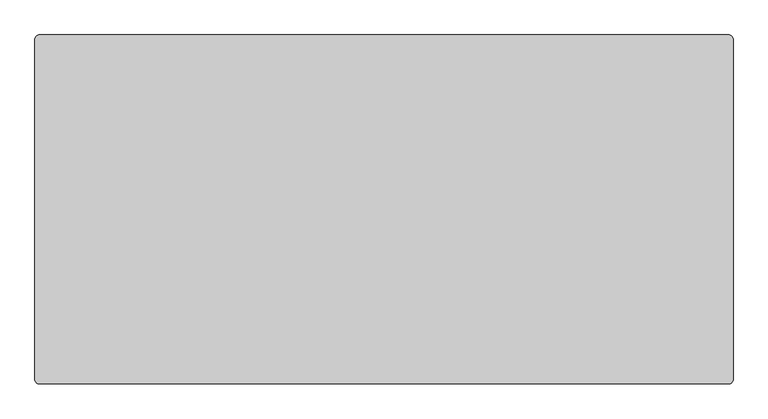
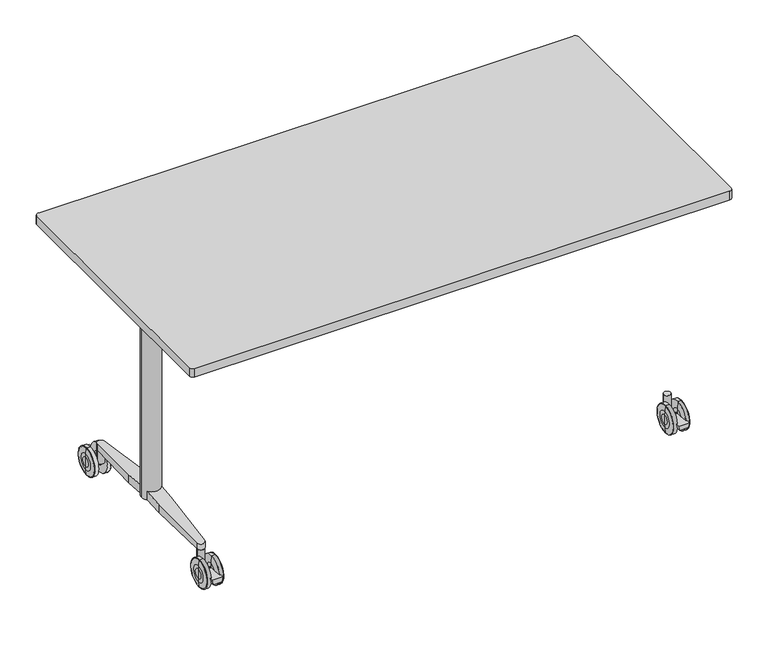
"""IFC4 building model written with IfcOpenShell, lengths in millimetres: furniture geometry."""

from ifc_helpers import new_model, si_unit, point, frame, frame_2d, origin, place, context, project, spatial, polyline, circle_curve, ellipse_curve, trimmed, segment, composite_curve, outline, extrude, source, transform, mapped, element, save
from ifc_brep_helpers import plane_surface, cylinder_surface, revolved_surface, advanced_brep


def furniture_0f136f00(model_context):
    return source(origin(), model_context, "Body", "SolidModel", [
        extrude(outline(composite_curve([segment(trimmed(circle_curve(frame_2d((-740.0, 490.9511544)), 10.0), [point((-750.0, 490.9511544))], [point((-740.0, 500.9511544))], False, "CARTESIAN"), True, "CONTINUOUS"), segment(polyline([(-740.0, 500.9511544), (740.0, 500.9511544)]), True, "CONTINUOUS"), segment(trimmed(circle_curve(frame_2d((740.0, 490.9511544)), 10.0), [point((740.0, 500.9511544))], [point((750.0, 490.9511544))], False, "CARTESIAN"), True, "CONTINUOUS"), segment(polyline([(750.0, 490.9511544), (750.0, -239.0488456)]), True, "CONTINUOUS"), segment(trimmed(circle_curve(frame_2d((740.0, -239.0488456)), 10.0), [point((750.0, -239.0488456))], [point((740.0, -249.0488456))], False, "CARTESIAN"), True, "CONTINUOUS"), segment(polyline([(740.0, -249.0488456), (-740.0, -249.0488456)]), True, "CONTINUOUS"), segment(trimmed(circle_curve(frame_2d((-740.0, -239.0488456)), 10.0), [point((-740.0, -249.0488456))], [point((-750.0, -239.0488456))], False, "CARTESIAN"), True, "CONTINUOUS"), segment(polyline([(-750.0, -239.0488456), (-750.0, 490.9511544)]), True, "CONTINUOUS")], self_intersect=False)), frame((0.0, 0.0, 705.0), z_axis=(0.0, 0.0, 1.0), x_axis=(1.0, 0.0, 0.0)), (0.0, 0.0, 1.0), 25.0),
        extrude(outline(polyline([(46.8012701, -659.9796901), (33.7579803, -657.2784737), (33.7579803, -633.5602115), (46.8012701, -630.8589951), (46.8012701, -659.9796901)])), frame((0.0, -194.0488456, 0.0), z_axis=(0.0, 1.0, 0.0), x_axis=(0.0, 0.0, 1.0)), (0.0, 0.0, 1.0), 50.0),
        extrude(outline(composite_curve([segment(trimmed(circle_curve(frame_2d((-645.5388896, -113.8396127)), 9.5), [point((-655.0388896, -113.8396127))], [point((-636.0388896, -113.8396127))], False, "CARTESIAN"), True, "CONTINUOUS"), segment(trimmed(circle_curve(frame_2d((-645.5388896, -113.8396127)), 9.5), [point((-636.0388896, -113.8396127))], [point((-655.0388896, -113.8396127))], False, "CARTESIAN"), True, "CONTINUOUS")], self_intersect=False)), frame((0.0, 0.0, 50.0000143), z_axis=(0.0, 0.0, 1.0), x_axis=(1.0, 0.0, 0.0)), (0.0, 0.0, 1.0), 38.8098324),
        advanced_brep(
        [(-620.4530674, -144.0488456, 26.9613134), (-620.4530674, -144.0488456, 53.0387194), (-620.4530674, -144.0488456, 40.0000164), (-622.5845915, -144.0488456, 0.8972162), (-622.5845915, -144.0488456, 79.1028166), (-621.0121742, -144.0488456, 63.8876748), (-621.0121742, -144.0488456, 16.1123581), (-633.5439759, -144.0488456, 1.43e-05), (-633.5439759, -144.0488456, 80.0000185), (-623.5792938, -144.0488456, 80.0000185), (-623.5792938, -144.0488456, 1.43e-05), (-635.4530966, -144.0488456, 20.9999281), (-635.4530966, -144.0488456, 59.0001048), (-635.4530966, -144.0488456, 32.3463502), (-635.4530966, -144.0488456, 47.6536826), (-655.3531174, -144.0488456, 32.3463502), (-655.3531174, -144.0488456, 47.6536826), (-655.3531174, -144.0488456, 20.9999281), (-655.3531174, -144.0488456, 59.0001048), (-657.2622381, -144.0488456, 1.43e-05), (-657.2622381, -144.0488456, 80.0000185), (-666.3249398, -144.0488456, 1.43e-05), (-666.3249398, -144.0488456, 80.0000185), (-669.7942336, -144.0488456, 16.1142331), (-669.7942336, -144.0488456, 63.8857997), (-668.3143443, -144.0488456, 78.2056147), (-668.3143443, -144.0488456, 1.7944182), (-670.3531466, -144.0488456, 40.0000164), (-670.3531466, -144.0488456, 53.0406045), (-670.3531466, -144.0488456, 26.9594284)],
        [
            (0, 1, circle_curve(frame((-620.4530674, -144.0488456, 40.0000164), z_axis=(1.0, 0.0, 0.0), x_axis=(0.0, 0.0, 1.0)), 13.038703)),
            (1, 2),
            (2, 0),
            (1, 0, circle_curve(frame((-620.4530674, -144.0488456, 40.0000164), z_axis=(1.0, 0.0, 0.0), x_axis=(0.0, 0.0, 1.0)), 13.038703)),
            (3, 4, circle_curve(frame((-622.5845915, -144.0488456, 40.0000164), z_axis=(1.0, 0.0, 0.0), x_axis=(0.0, 0.0, 1.0)), 39.1028002)),
            (4, 5),
            (5, 6, circle_curve(frame((-621.0121742, -144.0488456, 40.0000164), z_axis=(-1.0, 0.0, 0.0), x_axis=(0.0, 0.0, 1.0)), 23.8876584)),
            (6, 3),
            (4, 3, circle_curve(frame((-622.5845915, -144.0488456, 40.0000164), z_axis=(1.0, 0.0, 0.0), x_axis=(0.0, 0.0, 1.0)), 39.1028002)),
            (6, 5, circle_curve(frame((-621.0121742, -144.0488456, 40.0000164), z_axis=(-1.0, 0.0, 0.0), x_axis=(0.0, 0.0, 1.0)), 23.8876584)),
            (7, 8, circle_curve(frame((-633.5439759, -144.0488456, 40.0000164), z_axis=(1.0, 0.0, 0.0), x_axis=(0.0, 0.0, 1.0)), 40.0000021)),
            (8, 9),
            (9, 10, circle_curve(frame((-623.5792938, -144.0488456, 40.0000164), z_axis=(-1.0, 0.0, 0.0), x_axis=(0.0, 0.0, 1.0)), 40.0000021)),
            (10, 7),
            (8, 7, circle_curve(frame((-633.5439759, -144.0488456, 40.0000164), z_axis=(1.0, 0.0, 0.0), x_axis=(0.0, 0.0, 1.0)), 40.0000021)),
            (10, 9, circle_curve(frame((-623.5792938, -144.0488456, 40.0000164), z_axis=(-1.0, 0.0, 0.0), x_axis=(0.0, 0.0, 1.0)), 40.0000021)),
            (11, 12, circle_curve(frame((-635.4530966, -144.0488456, 40.0000164), z_axis=(1.0, 0.0, 0.0), x_axis=(0.0, 0.0, 1.0)), 19.0000883)),
            (12, 8),
            (7, 11),
            (12, 11, circle_curve(frame((-635.4530966, -144.0488456, 40.0000164), z_axis=(1.0, 0.0, 0.0), x_axis=(0.0, 0.0, 1.0)), 19.0000883)),
            (13, 14, circle_curve(frame((-635.4530966, -144.0488456, 40.0000164), z_axis=(1.0, 0.0, 0.0), x_axis=(0.0, 0.0, 1.0)), 7.6536662)),
            (14, 12),
            (11, 13),
            (14, 13, circle_curve(frame((-635.4530966, -144.0488456, 40.0000164), z_axis=(1.0, 0.0, 0.0), x_axis=(0.0, 0.0, 1.0)), 7.6536662)),
            (15, 16, circle_curve(frame((-655.3531174, -144.0488456, 40.0000164), z_axis=(1.0, 0.0, 0.0), x_axis=(0.0, 0.0, 1.0)), 7.6536662)),
            (16, 14),
            (13, 15),
            (16, 15, circle_curve(frame((-655.3531174, -144.0488456, 40.0000164), z_axis=(1.0, 0.0, 0.0), x_axis=(0.0, 0.0, 1.0)), 7.6536662)),
            (17, 18, circle_curve(frame((-655.3531174, -144.0488456, 40.0000164), z_axis=(1.0, 0.0, 0.0), x_axis=(0.0, 0.0, 1.0)), 19.0000883)),
            (18, 16),
            (15, 17),
            (18, 17, circle_curve(frame((-655.3531174, -144.0488456, 40.0000164), z_axis=(1.0, 0.0, 0.0), x_axis=(0.0, 0.0, 1.0)), 19.0000883)),
            (19, 20, circle_curve(frame((-657.2622381, -144.0488456, 40.0000164), z_axis=(1.0, 0.0, 0.0), x_axis=(0.0, 0.0, 1.0)), 40.0000021)),
            (20, 18),
            (17, 19),
            (20, 19, circle_curve(frame((-657.2622381, -144.0488456, 40.0000164), z_axis=(1.0, 0.0, 0.0), x_axis=(0.0, 0.0, 1.0)), 40.0000021)),
            (21, 22, circle_curve(frame((-666.3249398, -144.0488456, 40.0000164), z_axis=(1.0, 0.0, 0.0), x_axis=(0.0, 0.0, 1.0)), 40.0000021)),
            (22, 20),
            (19, 21),
            (22, 21, circle_curve(frame((-666.3249398, -144.0488456, 40.0000164), z_axis=(1.0, 0.0, 0.0), x_axis=(0.0, 0.0, 1.0)), 40.0000021)),
            (23, 24, circle_curve(frame((-669.7942336, -144.0488456, 40.0000164), z_axis=(1.0, 0.0, 0.0), x_axis=(0.0, 0.0, 1.0)), 23.8857833)),
            (24, 25),
            (25, 26, circle_curve(frame((-668.3143443, -144.0488456, 40.0000164), z_axis=(-1.0, 0.0, 0.0), x_axis=(0.0, 0.0, 1.0)), 38.2055982)),
            (26, 23),
            (24, 23, circle_curve(frame((-669.7942336, -144.0488456, 40.0000164), z_axis=(1.0, 0.0, 0.0), x_axis=(0.0, 0.0, 1.0)), 23.8857833)),
            (26, 25, circle_curve(frame((-668.3143443, -144.0488456, 40.0000164), z_axis=(-1.0, 0.0, 0.0), x_axis=(0.0, 0.0, 1.0)), 38.2055982)),
            (27, 28),
            (28, 29, circle_curve(frame((-670.3531466, -144.0488456, 40.0000164), z_axis=(-1.0, 0.0, 0.0), x_axis=(0.0, 0.0, 1.0)), 13.0405881)),
            (29, 27),
            (29, 28, circle_curve(frame((-670.3531466, -144.0488456, 40.0000164), z_axis=(-1.0, 0.0, 0.0), x_axis=(0.0, 0.0, 1.0)), 13.0405881)),
            (5, 1, circle_curve(frame((-725.9896451, -144.0488456, 53.0387194), z_axis=(0.0, 1.0, 0.0), x_axis=(-1.0, 0.0, 0.0)), 105.5365777)),
            (0, 6, circle_curve(frame((-725.9896451, -144.0488456, 26.9613134), z_axis=(0.0, 1.0, 0.0), x_axis=(-1.0, 0.0, 0.0)), 105.5365777)),
            (9, 4, circle_curve(frame((-623.5792938, -144.0488456, 79.0000185), z_axis=(0.0, 1.0, 0.0), x_axis=(-1.0, 0.0, 0.0)), 1.0)),
            (3, 10, circle_curve(frame((-623.5792938, -144.0488456, 1.0000143), z_axis=(0.0, 1.0, 0.0), x_axis=(-1.0, 0.0, 0.0)), 1.0)),
            (25, 22, circle_curve(frame((-666.3249398, -144.0488456, 78.0000185), z_axis=(0.0, 1.0, 0.0), x_axis=(-1.0, 0.0, 0.0)), 2.0)),
            (21, 26, circle_curve(frame((-666.3249398, -144.0488456, 2.0000143), z_axis=(0.0, 1.0, 0.0), x_axis=(-1.0, 0.0, 0.0)), 2.0)),
            (28, 24, circle_curve(frame((-564.8531466, -144.0488456, 53.0406045), z_axis=(0.0, 1.0, 0.0), x_axis=(-1.0, 0.0, 0.0)), 105.5)),
            (23, 29, circle_curve(frame((-564.8531466, -144.0488456, 26.9594284), z_axis=(0.0, 1.0, 0.0), x_axis=(-1.0, 0.0, 0.0)), 105.5)),
        ],
        [
            plane_surface(frame((-620.4530674, -144.0488456, 40.0000164), z_axis=(1.0, 0.0, 0.0), x_axis=(0.0, 0.0, 1.0))),
            revolved_surface(polyline([(-621.0121742, -144.0488456, 63.8876748), (-622.5845915, -144.0488456, 79.1028166)]), (-686.1531192, -144.0488456, 40.0000164), (-1.0, 0.0, 0.0)),
            cylinder_surface(frame((-686.1531192, -144.0488456, 40.0000164), z_axis=(-1.0, 0.0, 0.0), x_axis=(0.0, 0.0, 1.0)), 40.0000021),
            revolved_surface(polyline([(-633.5439759, -144.0488456, 80.0000185), (-635.4530966, -144.0488456, 59.0001048)]), (-686.1531192, -144.0488456, 40.0000164), (-1.0, 0.0, 0.0)),
            plane_surface(frame((-635.4530966, -144.0488456, 40.0000164), z_axis=(-1.0, 0.0, 0.0), x_axis=(0.0, 0.0, 1.0))),
            cylinder_surface(frame((-686.1531192, -144.0488456, 40.0000164), z_axis=(-1.0, 0.0, 0.0), x_axis=(0.0, 0.0, 1.0)), 7.6536662),
            plane_surface(frame((-655.3531174, -144.0488456, 40.0000164), z_axis=(1.0, 0.0, 0.0), x_axis=(0.0, 0.0, 1.0))),
            revolved_surface(polyline([(-655.3531174, -144.0488456, 59.0001048), (-657.2622381, -144.0488456, 80.0000185)]), (-686.1531192, -144.0488456, 40.0000164), (-1.0, 0.0, 0.0)),
            revolved_surface(polyline([(-668.3143443, -144.0488456, 78.2056147), (-669.7942336, -144.0488456, 63.8857997)]), (-686.1531192, -144.0488456, 40.0000164), (-1.0, 0.0, 0.0)),
            plane_surface(frame((-670.3531466, -144.0488456, 40.0000164), z_axis=(-1.0, 0.0, 0.0), x_axis=(0.0, 0.0, 1.0))),
            revolved_surface(trimmed(ellipse_curve(frame((-725.9896451, -144.0488456, 53.0387194), z_axis=(0.0, -1.0, 0.0), x_axis=(-1.0, 0.0, 0.0)), 105.5365777, 105.5365777), [point((-620.4530674, -144.0488456, 53.0387194))], [point((-621.0121742, -144.0488456, 63.8876748))], True, "CARTESIAN"), (-686.1531192, -144.0488456, 40.0000164), (-1.0, 0.0, 0.0)),
            revolved_surface(trimmed(ellipse_curve(frame((-623.5792938, -144.0488456, 79.0000185), z_axis=(0.0, -1.0, 0.0), x_axis=(-1.0, 0.0, 0.0)), 1.0, 1.0), [point((-622.5845915, -144.0488456, 79.1028166))], [point((-623.5792938, -144.0488456, 80.0000185))], True, "CARTESIAN"), (-686.1531192, -144.0488456, 40.0000164), (-1.0, 0.0, 0.0)),
            revolved_surface(trimmed(ellipse_curve(frame((-666.3249398, -144.0488456, 78.0000185), z_axis=(0.0, -1.0, 0.0), x_axis=(-1.0, 0.0, 0.0)), 2.0, 2.0), [point((-666.3249398, -144.0488456, 80.0000185))], [point((-668.3143443, -144.0488456, 78.2056147))], True, "CARTESIAN"), (-686.1531192, -144.0488456, 40.0000164), (-1.0, 0.0, 0.0)),
            revolved_surface(trimmed(ellipse_curve(frame((-564.8531466, -144.0488456, 53.0406045), z_axis=(0.0, -1.0, 0.0), x_axis=(-1.0, 0.0, 0.0)), 105.5, 105.5), [point((-669.7942336, -144.0488456, 63.8857997))], [point((-670.3531466, -144.0488456, 53.0406045))], True, "CARTESIAN"), (-686.1531192, -144.0488456, 40.0000164), (-1.0, 0.0, 0.0)),
        ],
        [
            (0, [[1, 2, 3]]),
            (0, [[4, -3, -2]]),
            (1, [[5, 6, 7, 8]]),
            (1, [[9, -8, 10, -6]]),
            (2, [[11, 12, 13, 14]]),
            (2, [[15, -14, 16, -12]]),
            (3, [[17, 18, -11, 19]]),
            (3, [[20, -19, -15, -18]]),
            (4, [[21, 22, -17, 23]]),
            (4, [[24, -23, -20, -22]]),
            (5, [[25, 26, -21, 27]]),
            (5, [[28, -27, -24, -26]]),
            (6, [[29, 30, -25, 31]]),
            (6, [[32, -31, -28, -30]]),
            (7, [[33, 34, -29, 35]]),
            (7, [[36, -35, -32, -34]]),
            (2, [[37, 38, -33, 39]]),
            (2, [[40, -39, -36, -38]]),
            (8, [[41, 42, 43, 44]]),
            (8, [[45, -44, 46, -42]]),
            (9, [[47, 48, 49]]),
            (9, [[-49, 50, -47]]),
            (10, [[-7, 51, -1, 52]]),
            (10, [[-10, -52, -4, -51]]),
            (11, [[-13, 53, -5, 54]]),
            (11, [[-16, -54, -9, -53]]),
            (12, [[-43, 55, -37, 56]]),
            (12, [[-46, -56, -40, -55]]),
            (13, [[-48, 57, -41, 58]]),
            (13, [[-50, -58, -45, -57]]),
        ],
    ),
        extrude(outline(polyline([(46.8012701, 659.9796901), (46.8012701, 630.8589951), (33.7579803, 633.5602115), (33.7579803, 657.2784737), (46.8012701, 659.9796901)])), frame((0.0, -194.0488456, 0.0), z_axis=(0.0, 1.0, 0.0), x_axis=(0.0, 0.0, 1.0)), (0.0, 0.0, 1.0), 50.0),
        extrude(outline(composite_curve([segment(trimmed(circle_curve(frame_2d((645.5388896, -113.8396127)), 9.5), [point((655.0388896, -113.8396127))], [point((636.0388896, -113.8396127))], False, "CARTESIAN"), True, "CONTINUOUS"), segment(trimmed(circle_curve(frame_2d((645.5388896, -113.8396127)), 9.5), [point((636.0388896, -113.8396127))], [point((655.0388896, -113.8396127))], False, "CARTESIAN"), True, "CONTINUOUS")], self_intersect=False)), frame((0.0, 0.0, 50.0000143), z_axis=(0.0, 0.0, 1.0), x_axis=(1.0, 0.0, 0.0)), (0.0, 0.0, 1.0), 38.8098324),
        advanced_brep(
        [(620.4530674, -144.0488456, 40.0000164), (620.4530674, -144.0488456, 53.0387194), (620.4530674, -144.0488456, 26.9613134), (621.0121742, -144.0488456, 16.1123581), (621.0121742, -144.0488456, 63.8876748), (622.5845915, -144.0488456, 79.1028166), (622.5845915, -144.0488456, 0.8972162), (623.5792938, -144.0488456, 1.43e-05), (623.5792938, -144.0488456, 80.0000185), (633.5439759, -144.0488456, 80.0000185), (633.5439759, -144.0488456, 1.43e-05), (635.4530966, -144.0488456, 59.0001048), (635.4530966, -144.0488456, 20.9999281), (635.4530966, -144.0488456, 47.6536826), (635.4530966, -144.0488456, 32.3463502), (655.3531174, -144.0488456, 47.6536826), (655.3531174, -144.0488456, 32.3463502), (655.3531174, -144.0488456, 59.0001048), (655.3531174, -144.0488456, 20.9999281), (657.2622381, -144.0488456, 80.0000185), (657.2622381, -144.0488456, 1.43e-05), (666.3249398, -144.0488456, 80.0000185), (666.3249398, -144.0488456, 1.43e-05), (668.3143443, -144.0488456, 1.7944182), (668.3143443, -144.0488456, 78.2056147), (669.7942336, -144.0488456, 63.8857997), (669.7942336, -144.0488456, 16.1142331), (670.3531466, -144.0488456, 26.9594284), (670.3531466, -144.0488456, 53.0406045), (670.3531466, -144.0488456, 40.0000164)],
        [
            (0, 1),
            (1, 2, circle_curve(frame((620.4530674, -144.0488456, 40.0000164), z_axis=(-1.0, 0.0, 0.0), x_axis=(0.0, 0.0, 1.0)), 13.038703)),
            (2, 0),
            (2, 1, circle_curve(frame((620.4530674, -144.0488456, 40.0000164), z_axis=(-1.0, 0.0, 0.0), x_axis=(0.0, 0.0, 1.0)), 13.038703)),
            (3, 4, circle_curve(frame((621.0121742, -144.0488456, 40.0000164), z_axis=(1.0, 0.0, 0.0), x_axis=(0.0, 0.0, 1.0)), 23.8876584)),
            (4, 5),
            (5, 6, circle_curve(frame((622.5845915, -144.0488456, 40.0000164), z_axis=(-1.0, 0.0, 0.0), x_axis=(0.0, 0.0, 1.0)), 39.1028002)),
            (6, 3),
            (4, 3, circle_curve(frame((621.0121742, -144.0488456, 40.0000164), z_axis=(1.0, 0.0, 0.0), x_axis=(0.0, 0.0, 1.0)), 23.8876584)),
            (6, 5, circle_curve(frame((622.5845915, -144.0488456, 40.0000164), z_axis=(-1.0, 0.0, 0.0), x_axis=(0.0, 0.0, 1.0)), 39.1028002)),
            (7, 8, circle_curve(frame((623.5792938, -144.0488456, 40.0000164), z_axis=(1.0, 0.0, 0.0), x_axis=(0.0, 0.0, 1.0)), 40.0000021)),
            (8, 9),
            (9, 10, circle_curve(frame((633.5439759, -144.0488456, 40.0000164), z_axis=(-1.0, 0.0, 0.0), x_axis=(0.0, 0.0, 1.0)), 40.0000021)),
            (10, 7),
            (8, 7, circle_curve(frame((623.5792938, -144.0488456, 40.0000164), z_axis=(1.0, 0.0, 0.0), x_axis=(0.0, 0.0, 1.0)), 40.0000021)),
            (10, 9, circle_curve(frame((633.5439759, -144.0488456, 40.0000164), z_axis=(-1.0, 0.0, 0.0), x_axis=(0.0, 0.0, 1.0)), 40.0000021)),
            (9, 11),
            (11, 12, circle_curve(frame((635.4530966, -144.0488456, 40.0000164), z_axis=(-1.0, 0.0, 0.0), x_axis=(0.0, 0.0, 1.0)), 19.0000883)),
            (12, 10),
            (12, 11, circle_curve(frame((635.4530966, -144.0488456, 40.0000164), z_axis=(-1.0, 0.0, 0.0), x_axis=(0.0, 0.0, 1.0)), 19.0000883)),
            (11, 13),
            (13, 14, circle_curve(frame((635.4530966, -144.0488456, 40.0000164), z_axis=(-1.0, 0.0, 0.0), x_axis=(0.0, 0.0, 1.0)), 7.6536662)),
            (14, 12),
            (14, 13, circle_curve(frame((635.4530966, -144.0488456, 40.0000164), z_axis=(-1.0, 0.0, 0.0), x_axis=(0.0, 0.0, 1.0)), 7.6536662)),
            (13, 15),
            (15, 16, circle_curve(frame((655.3531174, -144.0488456, 40.0000164), z_axis=(-1.0, 0.0, 0.0), x_axis=(0.0, 0.0, 1.0)), 7.6536662)),
            (16, 14),
            (16, 15, circle_curve(frame((655.3531174, -144.0488456, 40.0000164), z_axis=(-1.0, 0.0, 0.0), x_axis=(0.0, 0.0, 1.0)), 7.6536662)),
            (15, 17),
            (17, 18, circle_curve(frame((655.3531174, -144.0488456, 40.0000164), z_axis=(-1.0, 0.0, 0.0), x_axis=(0.0, 0.0, 1.0)), 19.0000883)),
            (18, 16),
            (18, 17, circle_curve(frame((655.3531174, -144.0488456, 40.0000164), z_axis=(-1.0, 0.0, 0.0), x_axis=(0.0, 0.0, 1.0)), 19.0000883)),
            (17, 19),
            (19, 20, circle_curve(frame((657.2622381, -144.0488456, 40.0000164), z_axis=(-1.0, 0.0, 0.0), x_axis=(0.0, 0.0, 1.0)), 40.0000021)),
            (20, 18),
            (20, 19, circle_curve(frame((657.2622381, -144.0488456, 40.0000164), z_axis=(-1.0, 0.0, 0.0), x_axis=(0.0, 0.0, 1.0)), 40.0000021)),
            (19, 21),
            (21, 22, circle_curve(frame((666.3249398, -144.0488456, 40.0000164), z_axis=(-1.0, 0.0, 0.0), x_axis=(0.0, 0.0, 1.0)), 40.0000021)),
            (22, 20),
            (22, 21, circle_curve(frame((666.3249398, -144.0488456, 40.0000164), z_axis=(-1.0, 0.0, 0.0), x_axis=(0.0, 0.0, 1.0)), 40.0000021)),
            (23, 24, circle_curve(frame((668.3143443, -144.0488456, 40.0000164), z_axis=(1.0, 0.0, 0.0), x_axis=(0.0, 0.0, 1.0)), 38.2055982)),
            (24, 25),
            (25, 26, circle_curve(frame((669.7942336, -144.0488456, 40.0000164), z_axis=(-1.0, 0.0, 0.0), x_axis=(0.0, 0.0, 1.0)), 23.8857833)),
            (26, 23),
            (24, 23, circle_curve(frame((668.3143443, -144.0488456, 40.0000164), z_axis=(1.0, 0.0, 0.0), x_axis=(0.0, 0.0, 1.0)), 38.2055982)),
            (26, 25, circle_curve(frame((669.7942336, -144.0488456, 40.0000164), z_axis=(-1.0, 0.0, 0.0), x_axis=(0.0, 0.0, 1.0)), 23.8857833)),
            (27, 28, circle_curve(frame((670.3531466, -144.0488456, 40.0000164), z_axis=(1.0, 0.0, 0.0), x_axis=(0.0, 0.0, 1.0)), 13.0405881)),
            (28, 29),
            (29, 27),
            (28, 27, circle_curve(frame((670.3531466, -144.0488456, 40.0000164), z_axis=(1.0, 0.0, 0.0), x_axis=(0.0, 0.0, 1.0)), 13.0405881)),
            (1, 4, circle_curve(frame((725.9896451, -144.0488456, 53.0387194), z_axis=(0.0, 1.0, 0.0), x_axis=(-1.0, 0.0, 0.0)), 105.5365777)),
            (3, 2, circle_curve(frame((725.9896451, -144.0488456, 26.9613134), z_axis=(0.0, 1.0, 0.0), x_axis=(-1.0, 0.0, 0.0)), 105.5365777)),
            (5, 8, circle_curve(frame((623.5792938, -144.0488456, 79.0000185), z_axis=(0.0, 1.0, 0.0), x_axis=(-1.0, 0.0, 0.0)), 1.0)),
            (7, 6, circle_curve(frame((623.5792938, -144.0488456, 1.0000143), z_axis=(0.0, 1.0, 0.0), x_axis=(-1.0, 0.0, 0.0)), 1.0)),
            (21, 24, circle_curve(frame((666.3249398, -144.0488456, 78.0000185), z_axis=(0.0, 1.0, 0.0), x_axis=(-1.0, 0.0, 0.0)), 2.0)),
            (23, 22, circle_curve(frame((666.3249398, -144.0488456, 2.0000143), z_axis=(0.0, 1.0, 0.0), x_axis=(-1.0, 0.0, 0.0)), 2.0)),
            (25, 28, circle_curve(frame((564.8531466, -144.0488456, 53.0406045), z_axis=(0.0, 1.0, 0.0), x_axis=(-1.0, 0.0, 0.0)), 105.5)),
            (27, 26, circle_curve(frame((564.8531466, -144.0488456, 26.9594284), z_axis=(0.0, 1.0, 0.0), x_axis=(-1.0, 0.0, 0.0)), 105.5)),
        ],
        [
            plane_surface(frame((620.4530674, -144.0488456, 40.0000164), z_axis=(-1.0, 0.0, 0.0), x_axis=(0.0, 0.0, 1.0))),
            revolved_surface(polyline([(622.5845915, -144.0488456, 79.1028166), (621.0121742, -144.0488456, 63.8876748)]), (686.1531192, -144.0488456, 40.0000164), (-1.0, 0.0, 0.0)),
            cylinder_surface(frame((686.1531192, -144.0488456, 40.0000164), z_axis=(-1.0, 0.0, 0.0), x_axis=(0.0, 0.0, 1.0)), 40.0000021),
            revolved_surface(polyline([(635.4530966, -144.0488456, 59.0001048), (633.5439759, -144.0488456, 80.0000185)]), (686.1531192, -144.0488456, 40.0000164), (-1.0, 0.0, 0.0)),
            plane_surface(frame((635.4530966, -144.0488456, 40.0000164), z_axis=(1.0, 0.0, 0.0), x_axis=(0.0, 0.0, 1.0))),
            cylinder_surface(frame((686.1531192, -144.0488456, 40.0000164), z_axis=(-1.0, 0.0, 0.0), x_axis=(0.0, 0.0, 1.0)), 7.6536662),
            plane_surface(frame((655.3531174, -144.0488456, 40.0000164), z_axis=(-1.0, 0.0, 0.0), x_axis=(0.0, 0.0, 1.0))),
            revolved_surface(polyline([(657.2622381, -144.0488456, 80.0000185), (655.3531174, -144.0488456, 59.0001048)]), (686.1531192, -144.0488456, 40.0000164), (-1.0, 0.0, 0.0)),
            revolved_surface(polyline([(669.7942336, -144.0488456, 63.8857997), (668.3143443, -144.0488456, 78.2056147)]), (686.1531192, -144.0488456, 40.0000164), (-1.0, 0.0, 0.0)),
            plane_surface(frame((670.3531466, -144.0488456, 40.0000164), z_axis=(1.0, 0.0, 0.0), x_axis=(0.0, 0.0, 1.0))),
            revolved_surface(trimmed(ellipse_curve(frame((725.9896451, -144.0488456, 53.0387194), z_axis=(0.0, -1.0, 0.0), x_axis=(-1.0, 0.0, 0.0)), 105.5365777, 105.5365777), [point((621.0121742, -144.0488456, 63.8876748))], [point((620.4530674, -144.0488456, 53.0387194))], True, "CARTESIAN"), (686.1531192, -144.0488456, 40.0000164), (-1.0, 0.0, 0.0)),
            revolved_surface(trimmed(ellipse_curve(frame((623.5792938, -144.0488456, 79.0000185), z_axis=(0.0, -1.0, 0.0), x_axis=(-1.0, 0.0, 0.0)), 1.0, 1.0), [point((623.5792938, -144.0488456, 80.0000185))], [point((622.5845915, -144.0488456, 79.1028166))], True, "CARTESIAN"), (686.1531192, -144.0488456, 40.0000164), (-1.0, 0.0, 0.0)),
            revolved_surface(trimmed(ellipse_curve(frame((666.3249398, -144.0488456, 78.0000185), z_axis=(0.0, -1.0, 0.0), x_axis=(-1.0, 0.0, 0.0)), 2.0, 2.0), [point((668.3143443, -144.0488456, 78.2056147))], [point((666.3249398, -144.0488456, 80.0000185))], True, "CARTESIAN"), (686.1531192, -144.0488456, 40.0000164), (-1.0, 0.0, 0.0)),
            revolved_surface(trimmed(ellipse_curve(frame((564.8531466, -144.0488456, 53.0406045), z_axis=(0.0, -1.0, 0.0), x_axis=(-1.0, 0.0, 0.0)), 105.5, 105.5), [point((670.3531466, -144.0488456, 53.0406045))], [point((669.7942336, -144.0488456, 63.8857997))], True, "CARTESIAN"), (686.1531192, -144.0488456, 40.0000164), (-1.0, 0.0, 0.0)),
        ],
        [
            (0, [[1, 2, 3]]),
            (0, [[-3, 4, -1]]),
            (1, [[5, 6, 7, 8]]),
            (1, [[9, -8, 10, -6]]),
            (2, [[11, 12, 13, 14]]),
            (2, [[15, -14, 16, -12]]),
            (3, [[-13, 17, 18, 19]]),
            (3, [[-16, -19, 20, -17]]),
            (4, [[-18, 21, 22, 23]]),
            (4, [[-20, -23, 24, -21]]),
            (5, [[-22, 25, 26, 27]]),
            (5, [[-24, -27, 28, -25]]),
            (6, [[-26, 29, 30, 31]]),
            (6, [[-28, -31, 32, -29]]),
            (7, [[-30, 33, 34, 35]]),
            (7, [[-32, -35, 36, -33]]),
            (2, [[-34, 37, 38, 39]]),
            (2, [[-36, -39, 40, -37]]),
            (8, [[41, 42, 43, 44]]),
            (8, [[45, -44, 46, -42]]),
            (9, [[47, 48, 49]]),
            (9, [[50, -49, -48]]),
            (10, [[-2, 51, -5, 52]]),
            (10, [[-4, -52, -9, -51]]),
            (11, [[-7, 53, -11, 54]]),
            (11, [[-10, -54, -15, -53]]),
            (12, [[-38, 55, -41, 56]]),
            (12, [[-40, -56, -45, -55]]),
            (13, [[-43, 57, -47, 58]]),
            (13, [[-46, -58, -50, -57]]),
        ],
    ),
        extrude(outline(composite_curve([segment(trimmed(circle_curve(frame_2d((-644.9999748, 125.9511544)), 20.0), [point((-664.9999748, 125.9511544))], [point((-624.9999748, 125.9511544))], False, "CARTESIAN"), True, "CONTINUOUS"), segment(trimmed(circle_curve(frame_2d((-644.9999748, 125.9511544)), 20.0), [point((-624.9999748, 125.9511544))], [point((-664.9999748, 125.9511544))], False, "CARTESIAN"), True, "CONTINUOUS")], self_intersect=False)), frame((0.0, 0.0, 656.2373886), z_axis=(0.0, 0.0, 1.0), x_axis=(1.0, 0.0, 0.0)), (0.0, 0.0, 1.0), 15.9928755),
        extrude(outline(composite_curve([segment(trimmed(circle_curve(frame_2d((-644.9999748, 125.9511544)), 22.0748856), [point((-622.9250892, 125.9511544))], [point((-667.0748605, 125.9511544))], False, "CARTESIAN"), True, "CONTINUOUS"), segment(trimmed(circle_curve(frame_2d((-644.9999748, 125.9511544)), 22.0748856), [point((-667.0748605, 125.9511544))], [point((-622.9250892, 125.9511544))], False, "CARTESIAN"), True, "CONTINUOUS")], self_intersect=False)), frame((0.0, 0.0, 648.5142032), z_axis=(0.0, 0.0, 1.0), x_axis=(1.0, 0.0, 0.0)), (0.0, 0.0, 1.0), 7.7231854),
        extrude(outline(composite_curve([segment(trimmed(circle_curve(frame_2d((-644.9999748, 125.9511544)), 21.8066495), [point((-623.1933253, 125.9511544))], [point((-666.8066244, 125.9511544))], False, "CARTESIAN"), True, "CONTINUOUS"), segment(trimmed(circle_curve(frame_2d((-644.9999748, 125.9511544)), 21.8066495), [point((-666.8066244, 125.9511544))], [point((-623.1933253, 125.9511544))], False, "CARTESIAN"), True, "CONTINUOUS")], self_intersect=False)), frame((0.0, 0.0, 672.2302641), z_axis=(0.0, 0.0, 1.0), x_axis=(1.0, 0.0, 0.0)), (0.0, 0.0, 1.0), 12.7697121),
        extrude(outline(composite_curve([segment(trimmed(circle_curve(frame_2d((645.0000252, 125.9511544)), 20.0), [point((625.0000252, 125.9511544))], [point((665.0000252, 125.9511544))], False, "CARTESIAN"), True, "CONTINUOUS"), segment(trimmed(circle_curve(frame_2d((645.0000252, 125.9511544)), 20.0), [point((665.0000252, 125.9511544))], [point((625.0000252, 125.9511544))], False, "CARTESIAN"), True, "CONTINUOUS")], self_intersect=False)), frame((0.0, 0.0, 656.2373886), z_axis=(0.0, 0.0, 1.0), x_axis=(1.0, 0.0, 0.0)), (0.0, 0.0, 1.0), 15.9928755),
        advanced_brep(
        [(-620.4530674, 395.9511544, 40.0000164), (-620.4530674, 395.9511544, 53.0387194), (-620.4530674, 395.9511544, 26.9613134), (-621.0121742, 395.9511544, 16.1123581), (-621.0121742, 395.9511544, 63.8876748), (-622.5845915, 395.9511544, 79.1028166), (-622.5845915, 395.9511544, 0.8972162), (-623.5792938, 395.9511544, 1.43e-05), (-623.5792938, 395.9511544, 80.0000185), (-633.5439759, 395.9511544, 80.0000185), (-633.5439759, 395.9511544, 1.43e-05), (-635.4530966, 395.9511544, 59.0001048), (-635.4530966, 395.9511544, 20.9999281), (-635.4530966, 395.9511544, 47.6536826), (-635.4530966, 395.9511544, 32.3463502), (-655.3531174, 395.9511544, 47.6536826), (-655.3531174, 395.9511544, 32.3463502), (-655.3531174, 395.9511544, 59.0001048), (-655.3531174, 395.9511544, 20.9999281), (-657.2622381, 395.9511544, 80.0000185), (-657.2622381, 395.9511544, 1.43e-05), (-666.3249398, 395.9511544, 80.0000185), (-666.3249398, 395.9511544, 1.43e-05), (-668.3143443, 395.9511544, 1.7944182), (-668.3143443, 395.9511544, 78.2056147), (-669.7942336, 395.9511544, 63.8857997), (-669.7942336, 395.9511544, 16.1142331), (-670.3531466, 395.9511544, 26.9594284), (-670.3531466, 395.9511544, 53.0406045), (-670.3531466, 395.9511544, 40.0000164)],
        [
            (0, 1),
            (1, 2, circle_curve(frame((-620.4530674, 395.9511544, 40.0000164), z_axis=(1.0, 0.0, 0.0), x_axis=(0.0, 0.0, 1.0)), 13.038703)),
            (2, 0),
            (2, 1, circle_curve(frame((-620.4530674, 395.9511544, 40.0000164), z_axis=(1.0, 0.0, 0.0), x_axis=(0.0, 0.0, 1.0)), 13.038703)),
            (3, 4, circle_curve(frame((-621.0121742, 395.9511544, 40.0000164), z_axis=(-1.0, 0.0, 0.0), x_axis=(0.0, 0.0, 1.0)), 23.8876584)),
            (4, 5),
            (5, 6, circle_curve(frame((-622.5845915, 395.9511544, 40.0000164), z_axis=(1.0, 0.0, 0.0), x_axis=(0.0, 0.0, 1.0)), 39.1028002)),
            (6, 3),
            (4, 3, circle_curve(frame((-621.0121742, 395.9511544, 40.0000164), z_axis=(-1.0, 0.0, 0.0), x_axis=(0.0, 0.0, 1.0)), 23.8876584)),
            (6, 5, circle_curve(frame((-622.5845915, 395.9511544, 40.0000164), z_axis=(1.0, 0.0, 0.0), x_axis=(0.0, 0.0, 1.0)), 39.1028002)),
            (7, 8, circle_curve(frame((-623.5792938, 395.9511544, 40.0000164), z_axis=(-1.0, 0.0, 0.0), x_axis=(0.0, 0.0, 1.0)), 40.0000021)),
            (8, 9),
            (9, 10, circle_curve(frame((-633.5439759, 395.9511544, 40.0000164), z_axis=(1.0, 0.0, 0.0), x_axis=(0.0, 0.0, 1.0)), 40.0000021)),
            (10, 7),
            (8, 7, circle_curve(frame((-623.5792938, 395.9511544, 40.0000164), z_axis=(-1.0, 0.0, 0.0), x_axis=(0.0, 0.0, 1.0)), 40.0000021)),
            (10, 9, circle_curve(frame((-633.5439759, 395.9511544, 40.0000164), z_axis=(1.0, 0.0, 0.0), x_axis=(0.0, 0.0, 1.0)), 40.0000021)),
            (9, 11),
            (11, 12, circle_curve(frame((-635.4530966, 395.9511544, 40.0000164), z_axis=(1.0, 0.0, 0.0), x_axis=(0.0, 0.0, 1.0)), 19.0000883)),
            (12, 10),
            (12, 11, circle_curve(frame((-635.4530966, 395.9511544, 40.0000164), z_axis=(1.0, 0.0, 0.0), x_axis=(0.0, 0.0, 1.0)), 19.0000883)),
            (11, 13),
            (13, 14, circle_curve(frame((-635.4530966, 395.9511544, 40.0000164), z_axis=(1.0, 0.0, 0.0), x_axis=(0.0, 0.0, 1.0)), 7.6536662)),
            (14, 12),
            (14, 13, circle_curve(frame((-635.4530966, 395.9511544, 40.0000164), z_axis=(1.0, 0.0, 0.0), x_axis=(0.0, 0.0, 1.0)), 7.6536662)),
            (13, 15),
            (15, 16, circle_curve(frame((-655.3531174, 395.9511544, 40.0000164), z_axis=(1.0, 0.0, 0.0), x_axis=(0.0, 0.0, 1.0)), 7.6536662)),
            (16, 14),
            (16, 15, circle_curve(frame((-655.3531174, 395.9511544, 40.0000164), z_axis=(1.0, 0.0, 0.0), x_axis=(0.0, 0.0, 1.0)), 7.6536662)),
            (15, 17),
            (17, 18, circle_curve(frame((-655.3531174, 395.9511544, 40.0000164), z_axis=(1.0, 0.0, 0.0), x_axis=(0.0, 0.0, 1.0)), 19.0000883)),
            (18, 16),
            (18, 17, circle_curve(frame((-655.3531174, 395.9511544, 40.0000164), z_axis=(1.0, 0.0, 0.0), x_axis=(0.0, 0.0, 1.0)), 19.0000883)),
            (17, 19),
            (19, 20, circle_curve(frame((-657.2622381, 395.9511544, 40.0000164), z_axis=(1.0, 0.0, 0.0), x_axis=(0.0, 0.0, 1.0)), 40.0000021)),
            (20, 18),
            (20, 19, circle_curve(frame((-657.2622381, 395.9511544, 40.0000164), z_axis=(1.0, 0.0, 0.0), x_axis=(0.0, 0.0, 1.0)), 40.0000021)),
            (19, 21),
            (21, 22, circle_curve(frame((-666.3249398, 395.9511544, 40.0000164), z_axis=(1.0, 0.0, 0.0), x_axis=(0.0, 0.0, 1.0)), 40.0000021)),
            (22, 20),
            (22, 21, circle_curve(frame((-666.3249398, 395.9511544, 40.0000164), z_axis=(1.0, 0.0, 0.0), x_axis=(0.0, 0.0, 1.0)), 40.0000021)),
            (23, 24, circle_curve(frame((-668.3143443, 395.9511544, 40.0000164), z_axis=(-1.0, 0.0, 0.0), x_axis=(0.0, 0.0, 1.0)), 38.2055982)),
            (24, 25),
            (25, 26, circle_curve(frame((-669.7942336, 395.9511544, 40.0000164), z_axis=(1.0, 0.0, 0.0), x_axis=(0.0, 0.0, 1.0)), 23.8857833)),
            (26, 23),
            (24, 23, circle_curve(frame((-668.3143443, 395.9511544, 40.0000164), z_axis=(-1.0, 0.0, 0.0), x_axis=(0.0, 0.0, 1.0)), 38.2055982)),
            (26, 25, circle_curve(frame((-669.7942336, 395.9511544, 40.0000164), z_axis=(1.0, 0.0, 0.0), x_axis=(0.0, 0.0, 1.0)), 23.8857833)),
            (27, 28, circle_curve(frame((-670.3531466, 395.9511544, 40.0000164), z_axis=(-1.0, 0.0, 0.0), x_axis=(0.0, 0.0, 1.0)), 13.0405881)),
            (28, 29),
            (29, 27),
            (28, 27, circle_curve(frame((-670.3531466, 395.9511544, 40.0000164), z_axis=(-1.0, 0.0, 0.0), x_axis=(0.0, 0.0, 1.0)), 13.0405881)),
            (1, 4, circle_curve(frame((-725.9896451, 395.9511544, 53.0387194), z_axis=(0.0, -1.0, 0.0), x_axis=(-1.0, 0.0, 0.0)), 105.5365777)),
            (3, 2, circle_curve(frame((-725.9896451, 395.9511544, 26.9613134), z_axis=(0.0, -1.0, 0.0), x_axis=(-1.0, 0.0, 0.0)), 105.5365777)),
            (5, 8, circle_curve(frame((-623.5792938, 395.9511544, 79.0000185), z_axis=(0.0, -1.0, 0.0), x_axis=(-1.0, 0.0, 0.0)), 1.0)),
            (7, 6, circle_curve(frame((-623.5792938, 395.9511544, 1.0000143), z_axis=(0.0, -1.0, 0.0), x_axis=(-1.0, 0.0, 0.0)), 1.0)),
            (21, 24, circle_curve(frame((-666.3249398, 395.9511544, 78.0000185), z_axis=(0.0, -1.0, 0.0), x_axis=(-1.0, 0.0, 0.0)), 2.0)),
            (23, 22, circle_curve(frame((-666.3249398, 395.9511544, 2.0000143), z_axis=(0.0, -1.0, 0.0), x_axis=(-1.0, 0.0, 0.0)), 2.0)),
            (25, 28, circle_curve(frame((-564.8531466, 395.9511544, 53.0406045), z_axis=(0.0, -1.0, 0.0), x_axis=(-1.0, 0.0, 0.0)), 105.5)),
            (27, 26, circle_curve(frame((-564.8531466, 395.9511544, 26.9594284), z_axis=(0.0, -1.0, 0.0), x_axis=(-1.0, 0.0, 0.0)), 105.5)),
        ],
        [
            plane_surface(frame((-620.4530674, 395.9511544, 40.0000164), z_axis=(1.0, 0.0, 0.0), x_axis=(0.0, 0.0, 1.0))),
            revolved_surface(polyline([(-622.5845915, 395.9511544, 79.1028166), (-621.0121742, 395.9511544, 63.8876748)]), (-686.1531192, 395.9511544, 40.0000164), (1.0, 0.0, 0.0)),
            cylinder_surface(frame((-686.1531192, 395.9511544, 40.0000164), z_axis=(1.0, 0.0, 0.0), x_axis=(0.0, 0.0, 1.0)), 40.0000021),
            revolved_surface(polyline([(-635.4530966, 395.9511544, 59.0001048), (-633.5439759, 395.9511544, 80.0000185)]), (-686.1531192, 395.9511544, 40.0000164), (1.0, 0.0, 0.0)),
            plane_surface(frame((-635.4530966, 395.9511544, 40.0000164), z_axis=(-1.0, 0.0, 0.0), x_axis=(0.0, 0.0, 1.0))),
            cylinder_surface(frame((-686.1531192, 395.9511544, 40.0000164), z_axis=(1.0, 0.0, 0.0), x_axis=(0.0, 0.0, 1.0)), 7.6536662),
            plane_surface(frame((-655.3531174, 395.9511544, 40.0000164), z_axis=(1.0, 0.0, 0.0), x_axis=(0.0, 0.0, 1.0))),
            revolved_surface(polyline([(-657.2622381, 395.9511544, 80.0000185), (-655.3531174, 395.9511544, 59.0001048)]), (-686.1531192, 395.9511544, 40.0000164), (1.0, 0.0, 0.0)),
            revolved_surface(polyline([(-669.7942336, 395.9511544, 63.8857997), (-668.3143443, 395.9511544, 78.2056147)]), (-686.1531192, 395.9511544, 40.0000164), (1.0, 0.0, 0.0)),
            plane_surface(frame((-670.3531466, 395.9511544, 40.0000164), z_axis=(-1.0, 0.0, 0.0), x_axis=(0.0, 0.0, 1.0))),
            revolved_surface(trimmed(ellipse_curve(frame((-725.9896451, 395.9511544, 53.0387194), z_axis=(0.0, 1.0, 0.0), x_axis=(-1.0, 0.0, 0.0)), 105.5365777, 105.5365777), [point((-621.0121742, 395.9511544, 63.8876748))], [point((-620.4530674, 395.9511544, 53.0387194))], True, "CARTESIAN"), (-686.1531192, 395.9511544, 40.0000164), (1.0, 0.0, 0.0)),
            revolved_surface(trimmed(ellipse_curve(frame((-623.5792938, 395.9511544, 79.0000185), z_axis=(0.0, 1.0, 0.0), x_axis=(-1.0, 0.0, 0.0)), 1.0, 1.0), [point((-623.5792938, 395.9511544, 80.0000185))], [point((-622.5845915, 395.9511544, 79.1028166))], True, "CARTESIAN"), (-686.1531192, 395.9511544, 40.0000164), (1.0, 0.0, 0.0)),
            revolved_surface(trimmed(ellipse_curve(frame((-666.3249398, 395.9511544, 78.0000185), z_axis=(0.0, 1.0, 0.0), x_axis=(-1.0, 0.0, 0.0)), 2.0, 2.0), [point((-668.3143443, 395.9511544, 78.2056147))], [point((-666.3249398, 395.9511544, 80.0000185))], True, "CARTESIAN"), (-686.1531192, 395.9511544, 40.0000164), (1.0, 0.0, 0.0)),
            revolved_surface(trimmed(ellipse_curve(frame((-564.8531466, 395.9511544, 53.0406045), z_axis=(0.0, 1.0, 0.0), x_axis=(-1.0, 0.0, 0.0)), 105.5, 105.5), [point((-670.3531466, 395.9511544, 53.0406045))], [point((-669.7942336, 395.9511544, 63.8857997))], True, "CARTESIAN"), (-686.1531192, 395.9511544, 40.0000164), (1.0, 0.0, 0.0)),
        ],
        [
            (0, [[1, 2, 3]]),
            (0, [[-3, 4, -1]]),
            (1, [[5, 6, 7, 8]]),
            (1, [[9, -8, 10, -6]]),
            (2, [[11, 12, 13, 14]]),
            (2, [[15, -14, 16, -12]]),
            (3, [[-13, 17, 18, 19]]),
            (3, [[-16, -19, 20, -17]]),
            (4, [[-18, 21, 22, 23]]),
            (4, [[-20, -23, 24, -21]]),
            (5, [[-22, 25, 26, 27]]),
            (5, [[-24, -27, 28, -25]]),
            (6, [[-26, 29, 30, 31]]),
            (6, [[-28, -31, 32, -29]]),
            (7, [[-30, 33, 34, 35]]),
            (7, [[-32, -35, 36, -33]]),
            (2, [[-34, 37, 38, 39]]),
            (2, [[-36, -39, 40, -37]]),
            (8, [[41, 42, 43, 44]]),
            (8, [[45, -44, 46, -42]]),
            (9, [[47, 48, 49]]),
            (9, [[50, -49, -48]]),
            (10, [[-2, 51, -5, 52]]),
            (10, [[-4, -52, -9, -51]]),
            (11, [[-7, 53, -11, 54]]),
            (11, [[-10, -54, -15, -53]]),
            (12, [[-38, 55, -41, 56]]),
            (12, [[-40, -56, -45, -55]]),
            (13, [[-43, 57, -47, 58]]),
            (13, [[-46, -58, -50, -57]]),
        ],
    ),
        advanced_brep(
        [(-665.0000252, 110.1174444, 125.5064747), (-665.0000252, 110.1174444, 100.5064747), (-665.0000252, 54.8340926, 97.609197), (-665.0000252, 54.8340926, 120.9141638), (-625.0000252, 110.1174444, 100.5064747), (-625.0000252, 110.1174444, 125.5064747), (-625.0000252, 65.6906566, 121.8160035), (-625.0000252, 65.6906566, 98.1781655), (-635.2734538, -113.0675149, 88.8098467), (-655.3504791, -113.0675149, 88.8098467), (-655.2954923, -114.0242831, 106.8873341), (-635.3284401, -114.0242798, 106.8873344), (-635.3284401, -114.0242798, 88.8098467), (-655.2954923, -114.0242831, 88.8098467)],
        [
            (0, 1),
            (1, 2),
            (2, 3),
            (3, 0),
            (4, 5),
            (5, 6),
            (6, 7),
            (7, 4),
            (1, 4),
            (7, 8),
            (8, 9),
            (9, 2),
            (5, 0),
            (3, 10),
            (10, 11, ellipse_curve(frame((-645.3119663, -113.4505156, 106.9349962), z_axis=(0.0, -0.0827834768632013, 0.9965675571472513), x_axis=(0.0, -0.9965675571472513, -0.08278347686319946)), 10.0344427, 10.0)),
            (11, 6),
            (8, 12),
            (12, 13, circle_curve(frame((-645.3119663, -113.4505156, 88.8098467), z_axis=(0.0, 0.0, -1.0), x_axis=(1.0, 0.0, 0.0)), 10.0)),
            (13, 9),
            (11, 12),
            (10, 13),
        ],
        [
            plane_surface(frame((-665.0000252, -113.0675149, 88.8098467), z_axis=(-1.0, 0.0, 0.0), x_axis=(0.0, -1.0, 0.0))),
            plane_surface(frame((-625.0000252, -113.0675149, 88.8098467), z_axis=(1.0, 0.0, 0.0), x_axis=(0.0, 1.0, 0.0))),
            plane_surface(frame((-665.0000252, 110.1174444, 100.5064747), z_axis=(0.0, 0.05233595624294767, -0.9986295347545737), x_axis=(1.0, 0.0, 0.0))),
            plane_surface(frame((-665.0000252, -124.5346363, 106.0142537), z_axis=(0.0, -0.0827834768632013, 0.9965675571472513), x_axis=(1.0, 0.0, 0.0))),
            plane_surface(frame((-665.0000252, -113.0675149, 88.8098467), z_axis=(0.0, 0.0, -1.0), x_axis=(1.0, 0.0, 0.0))),
            plane_surface(frame((-665.0000252, 110.1174444, 125.5064747), z_axis=(0.0, 1.0, 0.0), x_axis=(1.0, 0.0, 0.0))),
            plane_surface(frame((-622.5013837, 109.1671434, 234.8098558), z_axis=(0.9983526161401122, -0.05737642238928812, 0.0), x_axis=(0.0, 0.0, -1.0))),
            cylinder_surface(frame((-645.3119663, -113.4505156, -14.1901527), z_axis=(0.0, 0.0, -1.0), x_axis=(1.0, 0.0, 0.0)), 10.0),
            plane_surface(frame((-655.2954923, -114.0242831, 234.8098558), z_axis=(-0.9983525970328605, -0.05737675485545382, 0.0), x_axis=(0.0, 0.0, -1.0))),
        ],
        [
            (0, [[1, 2, 3, 4]]),
            (1, [[5, 6, 7, 8]]),
            (2, [[9, -8, 10, 11, 12, -2]]),
            (3, [[13, -4, 14, 15, 16, -6]]),
            (4, [[-11, 17, 18, 19]]),
            (5, [[-1, -13, -5, -9]]),
            (6, [[20, -17, -10, -7, -16]]),
            (7, [[-20, -15, 21, -18]]),
            (8, [[-21, -14, -3, -12, -19]]),
        ],
    ),
        advanced_brep(
        [(-665.0000252, 141.7848644, 100.5064747), (-665.0000252, 141.7848644, 125.5064747), (-665.0000252, 197.0682163, 120.9141638), (-665.0000252, 197.0682163, 97.609197), (-625.0000252, 141.7848644, 125.5064747), (-625.0000252, 141.7848644, 100.5064747), (-625.0000252, 186.2116523, 98.1781655), (-625.0000252, 186.2116523, 121.8160035), (-655.3504791, 364.9698238, 88.8098467), (-635.2734538, 364.9698238, 88.8098467), (-635.3284401, 365.9265887, 106.8873344), (-655.2954923, 365.926592, 106.8873341), (-655.2954923, 365.926592, 88.8098467), (-635.3284401, 365.9265887, 88.8098467)],
        [
            (0, 1),
            (1, 2),
            (2, 3),
            (3, 0),
            (4, 5),
            (5, 6),
            (6, 7),
            (7, 4),
            (5, 0),
            (3, 8),
            (8, 9),
            (9, 6),
            (4, 1),
            (7, 10),
            (10, 11, ellipse_curve(frame((-645.3119663, 365.3528245, 106.9349962), z_axis=(0.0, 0.08278347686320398, 0.9965675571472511), x_axis=(0.0, 0.9965675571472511, -0.08278347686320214)), 10.0344427, 10.0)),
            (11, 2),
            (8, 12),
            (12, 13, circle_curve(frame((-645.3119663, 365.3528245, 88.8098467), z_axis=(0.0, 0.0, -1.0), x_axis=(1.0, 0.0, 0.0)), 10.0)),
            (13, 9),
            (13, 10),
            (12, 11),
        ],
        [
            plane_surface(frame((-665.0000252, -113.0675149, 88.8098467), z_axis=(-1.0, 0.0, 0.0), x_axis=(0.0, -1.0, 0.0))),
            plane_surface(frame((-625.0000252, -113.0675149, 88.8098467), z_axis=(1.0, 0.0, 0.0), x_axis=(0.0, 1.0, 0.0))),
            plane_surface(frame((-665.0000252, 364.9698238, 88.8098467), z_axis=(0.0, -0.05233595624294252, -0.9986295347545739), x_axis=(1.0, 0.0, 0.0))),
            plane_surface(frame((-665.0000252, 141.7848644, 100.5064747), z_axis=(0.0, -1.0, 0.0), x_axis=(1.0, 0.0, 0.0))),
            plane_surface(frame((-665.0000252, 141.7848644, 125.5064747), z_axis=(0.0, 0.08278347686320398, 0.9965675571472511), x_axis=(1.0, 0.0, 0.0))),
            plane_surface(frame((-665.0000252, 376.4369452, 88.8098467), z_axis=(0.0, 0.0, -1.0), x_axis=(1.0, 0.0, 0.0))),
            plane_surface(frame((-635.3284401, 365.9265887, 234.8098558), z_axis=(0.9983526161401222, 0.05737642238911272, 0.0), x_axis=(0.0, 0.0, -1.0))),
            cylinder_surface(frame((-645.3119663, 365.3528245, -14.1901527), z_axis=(0.0, 0.0, -1.0), x_axis=(1.0, 0.0, 0.0)), 10.0),
            plane_surface(frame((-668.1772387, 141.7848644, 234.8098558), z_axis=(-0.9983525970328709, 0.057376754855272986, 0.0), x_axis=(0.0, 0.0, -1.0))),
        ],
        [
            (0, [[1, 2, 3, 4]]),
            (1, [[5, 6, 7, 8]]),
            (2, [[9, -4, 10, 11, 12, -6]]),
            (3, [[-1, -9, -5, 13]]),
            (4, [[-13, -8, 14, 15, 16, -2]]),
            (5, [[-11, 17, 18, 19]]),
            (6, [[20, -14, -7, -12, -19]]),
            (7, [[-20, -18, 21, -15]]),
            (8, [[-21, -17, -10, -3, -16]]),
        ],
    ),
        extrude(outline(polyline([(46.8012701, -659.9796901), (33.7579803, -657.2784737), (33.7579803, -633.5602115), (46.8012701, -630.8589951), (46.8012701, -659.9796901)])), frame((0.0, 395.9511544, 0.0), z_axis=(0.0, 1.0, 0.0), x_axis=(0.0, 0.0, 1.0)), (0.0, 0.0, 1.0), 50.0),
        extrude(outline(composite_curve([segment(trimmed(circle_curve(frame_2d((-645.5388896, 365.7419216)), 9.5), [point((-655.0388896, 365.7419216))], [point((-636.0388896, 365.7419216))], False, "CARTESIAN"), True, "CONTINUOUS"), segment(trimmed(circle_curve(frame_2d((-645.5388896, 365.7419216)), 9.5), [point((-636.0388896, 365.7419216))], [point((-655.0388896, 365.7419216))], False, "CARTESIAN"), True, "CONTINUOUS")], self_intersect=False)), frame((0.0, 0.0, 50.0000143), z_axis=(0.0, 0.0, 1.0), x_axis=(1.0, 0.0, 0.0)), (0.0, 0.0, 1.0), 38.8098324),
        extrude(outline(composite_curve([segment(trimmed(circle_curve(frame_2d((-645.0, 125.9511544)), 26.0), [point((-671.0, 125.9511544))], [point((-619.0, 125.9511544))], False, "CARTESIAN"), True, "CONTINUOUS"), segment(trimmed(circle_curve(frame_2d((-645.0, 125.9511544)), 26.0), [point((-619.0, 125.9511544))], [point((-671.0, 125.9511544))], False, "CARTESIAN"), True, "CONTINUOUS")], self_intersect=False)), frame((0.0, 0.0, 100.2652558), z_axis=(0.0, 0.0, 1.0), x_axis=(1.0, 0.0, 0.0)), (0.0, 0.0, 1.0), 548.2489474),
        extrude(outline(polyline([(-615.0000395, 397.9511544), (-615.0000395, -146.0488456), (-675.0000109, -146.0488456), (-675.0000109, 397.9511544), (-615.0000395, 397.9511544)])), frame((0.0, 0.0, 684.9999762), z_axis=(0.0, 0.0, 1.0), x_axis=(1.0, 0.0, 0.0)), (0.0, 0.0, 1.0), 20.0000238),
    ])


if __name__ == "__main__":
    model = new_model("IFC4")
    model_context = context("Model", 3, world=origin())
    ifc_project = project(units=[si_unit("LENGTHUNIT", "METRE", prefix="MILLI")], contexts=[model_context])
    site = spatial("IfcSite", under=ifc_project)
    building = spatial("IfcBuilding", under=site)
    placement = place(None, origin())
    furniture_shape = furniture_0f136f00(model_context)
    element("IfcFurniture", 1, at=placement, inside=building, context=model_context, shape_type="MappedRepresentation", body=[
        mapped(furniture_shape, transform((0.0, 0.0, 0.0), x_axis=(1.0, 0.0, 0.0), y_axis=(0.0, 1.0, 0.0), z_axis=(0.0, 0.0, 1.0))),
    ])
    save(model, "model.ifc")
